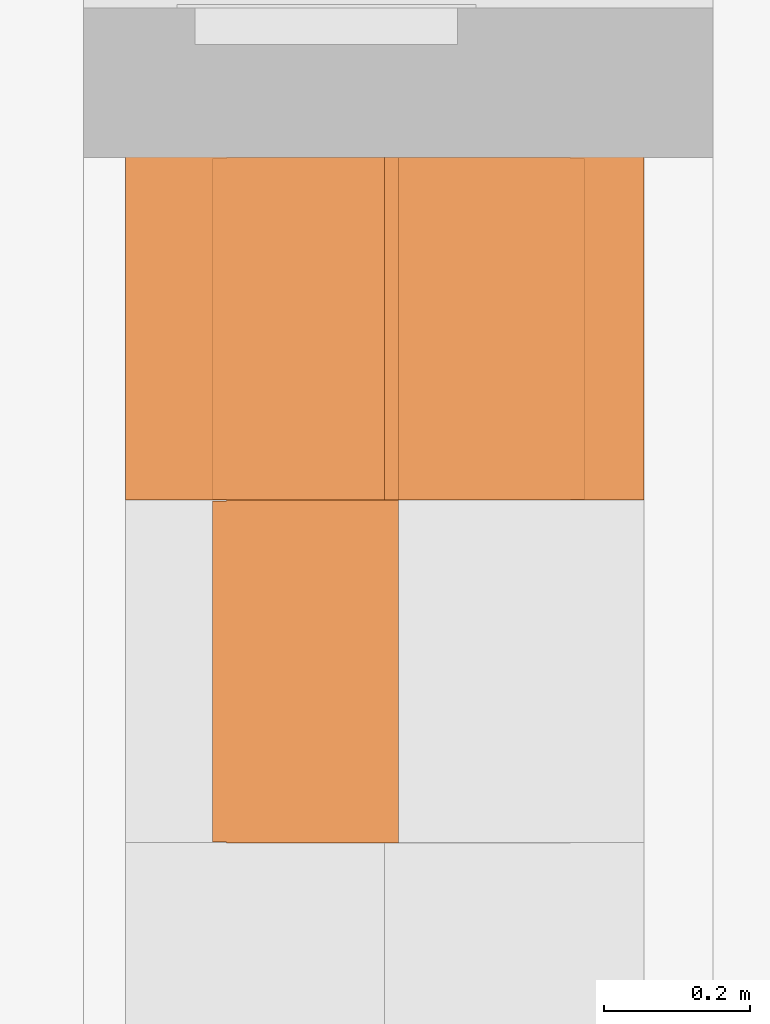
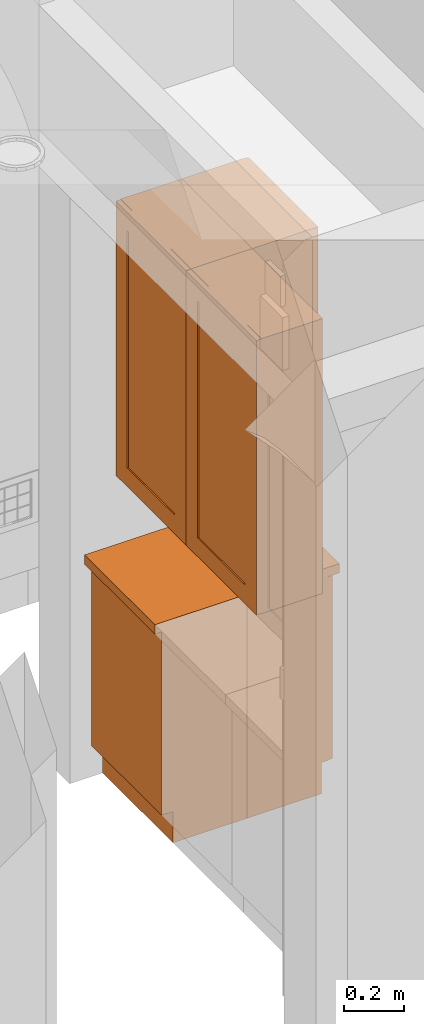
# One storey, part 56 of 77: 5 proxies.
"""IFC2X3 building model written with IfcOpenShell, lengths in inches."""

from ifc_helpers import new_model, entity, si_unit, converted_unit, derived_unit, money_unit, direction, frame, origin_with_axes, place, context, subcontext, project, spatial, faceted_brep, source, transform, mapped, type_object, element, save


model = new_model("IFC2X3")

# Units and contexts
model_context = context("Model", 3, precision=0.000393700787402, world=origin_with_axes(), true_north=direction((0.0, 1.0)))
body_context = subcontext(model_context, "Body", "Model", "MODEL_VIEW")
ifc_project = project(units=[converted_unit("LENGTHUNIT", "INCH", entity("IfcPositiveLengthMeasure", 0.0254), si_unit("LENGTHUNIT", "METRE"), dimensions=[1, 0, 0, 0, 0, 0, 0]), converted_unit("AREAUNIT", "SQUARE_FOOT", entity("IfcPositiveLengthMeasure", 0.09290304), si_unit("AREAUNIT", "SQUARE_METRE"), dimensions=[2, 0, 0, 0, 0, 0, 0]), si_unit("PLANEANGLEUNIT", "RADIAN"), si_unit("SOLIDANGLEUNIT", "STERADIAN"), money_unit("USD"), converted_unit("TIMEUNIT", "Year", entity("IfcTimeMeasure", 31556926.0), si_unit("TIMEUNIT", "SECOND"), dimensions=[0, 0, 1, 0, 0, 0, 0]), si_unit("MASSUNIT", "GRAM", prefix="KILO"), si_unit("THERMODYNAMICTEMPERATUREUNIT", "DEGREE_CELSIUS"), si_unit("LUMINOUSINTENSITYUNIT", "LUMEN"), si_unit("ENERGYUNIT", "JOULE", prefix="MEGA"), derived_unit("THERMALCONDUCTANCEUNIT", [(si_unit("POWERUNIT", "WATT"), 1), (si_unit("LENGTHUNIT", "METRE"), -1), (si_unit("THERMODYNAMICTEMPERATUREUNIT", "KELVIN"), -1)]), derived_unit("SPECIFICHEATCAPACITYUNIT", [(si_unit("ENERGYUNIT", "JOULE"), 1), (si_unit("MASSUNIT", "GRAM", prefix="KILO"), -1), (si_unit("THERMODYNAMICTEMPERATUREUNIT", "KELVIN"), -1)]), derived_unit("MASSDENSITYUNIT", [(si_unit("MASSUNIT", "GRAM", prefix="KILO"), 1), (si_unit("VOLUMEUNIT", "CUBIC_METRE"), -1)])], contexts=[model_context])

# Site, building, storey
site_placement = place(None, origin_with_axes())
site = spatial("IfcSite", under=ifc_project, at=site_placement, Name="Site", CompositionType="ELEMENT")
building_placement = place(site_placement, origin_with_axes())
building = spatial("IfcBuilding", under=site, at=building_placement, Name="Building", CompositionType="ELEMENT")
storey_placement = place(building_placement, frame((0.0, 0.0, 127.952755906), z_axis=(0.0, 0.0, 1.0), x_axis=(1.0, 0.0, 0.0)))
storey = spatial("IfcBuildingStorey", under=building, at=storey_placement, Name="Second Floor", CompositionType="ELEMENT", Elevation=127.953)

# Proxies
building_element_proxy_type_1 = type_object("IfcBuildingElementProxyType", Name="Wall Cabinet Block 25", PredefinedType="NOTDEFINED")
shared_shape_1 = source(origin_with_axes(), body_context, "Body", "Brep", [
    faceted_brep([(0.75, -9.28937007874, 70.8361220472), (17.7539370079, -9.28937007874, 70.8361220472), (17.7539370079, -9.28937007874, 71.5861220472), (0.75, -9.28937007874, 71.5861220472), (0.75, -0.75, 70.8361220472), (17.7539370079, -0.75, 70.8361220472), (17.7539370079, -0.75, 71.5861220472), (0.75, -0.75, 71.5861220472)], [[[0, 1, 2, 3]], [[0, 4, 5, 1]], [[1, 5, 6, 2]], [[3, 2, 6, 7]], [[4, 0, 3, 7]], [[5, 4, 7, 6]]]),
    faceted_brep([(0.75, -9.28937007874, 81.6722440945), (17.7539370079, -9.28937007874, 81.6722440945), (17.7539370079, -9.28937007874, 82.4222440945), (0.75, -9.28937007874, 82.4222440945), (0.75, -0.75, 81.6722440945), (17.7539370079, -0.75, 81.6722440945), (17.7539370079, -0.75, 82.4222440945), (0.75, -0.75, 82.4222440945)], [[[0, 1, 2, 3]], [[0, 4, 5, 1]], [[1, 5, 6, 2]], [[3, 2, 6, 7]], [[4, 0, 3, 7]], [[5, 4, 7, 6]]]),
    faceted_brep([(0.75, -9.28937007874, 92.5083661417), (17.7539370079, -9.28937007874, 92.5083661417), (17.7539370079, -9.28937007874, 93.2583661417), (0.75, -9.28937007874, 93.2583661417), (0.75, -0.75, 92.5083661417), (17.7539370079, -0.75, 92.5083661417), (17.7539370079, -0.75, 93.2583661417), (0.75, -0.75, 93.2583661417)], [[[0, 1, 2, 3]], [[0, 4, 5, 1]], [[1, 5, 6, 2]], [[3, 2, 6, 7]], [[4, 0, 3, 7]], [[5, 4, 7, 6]]]),
    faceted_brep([(0.0393700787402, -10.0393700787, 60.0393700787), (0.0393700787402, -10.0393700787, 104.05511811), (0.0393700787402, -9.28937007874, 104.05511811), (0.0393700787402, -9.28937007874, 60.0393700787), (3.03937007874, -10.0393700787, 63.0393700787), (3.03937007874, -10.0393700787, 101.05511811), (3.03937007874, -9.28937007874, 101.05511811), (3.03937007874, -9.28937007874, 63.0393700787)], [[[0, 1, 2, 3]], [[1, 0, 4, 5]], [[2, 1, 5, 6]], [[3, 2, 6, 7]], [[0, 3, 7, 4]], [[5, 4, 7, 6]]]),
    faceted_brep([(15.4645669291, -10.0393700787, 63.0393700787), (15.4645669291, -10.0393700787, 101.05511811), (15.4645669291, -9.28937007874, 101.05511811), (15.4645669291, -9.28937007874, 63.0393700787), (18.4645669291, -10.0393700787, 60.0393700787), (18.4645669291, -10.0393700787, 104.05511811), (18.4645669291, -9.28937007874, 104.05511811), (18.4645669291, -9.28937007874, 60.0393700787)], [[[0, 1, 2, 3]], [[1, 0, 4, 5]], [[2, 1, 5, 6]], [[3, 2, 6, 7]], [[0, 3, 7, 4]], [[5, 4, 7, 6]]]),
    faceted_brep([(0.0393700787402, -9.28937007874, 60.0393700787), (0.0393700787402, -10.0393700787, 60.0393700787), (3.03937007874, -10.0393700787, 63.0393700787), (3.03937007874, -9.28937007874, 63.0393700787), (18.4645669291, -9.28937007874, 60.0393700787), (18.4645669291, -10.0393700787, 60.0393700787), (15.4645669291, -10.0393700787, 63.0393700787), (15.4645669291, -9.28937007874, 63.0393700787)], [[[0, 1, 2, 3]], [[1, 0, 4, 5]], [[2, 1, 5, 6]], [[7, 3, 2, 6]], [[0, 3, 7, 4]], [[7, 6, 5, 4]]]),
    faceted_brep([(0.0393700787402, -10.0393700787, 104.05511811), (0.0393700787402, -9.28937007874, 104.05511811), (3.03937007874, -9.28937007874, 101.05511811), (3.03937007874, -10.0393700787, 101.05511811), (18.4645669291, -10.0393700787, 104.05511811), (18.4645669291, -9.28937007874, 104.05511811), (15.4645669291, -9.28937007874, 101.05511811), (15.4645669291, -10.0393700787, 101.05511811)], [[[0, 1, 2, 3]], [[1, 0, 4, 5]], [[2, 1, 5, 6]], [[2, 6, 7, 3]], [[0, 3, 7, 4]], [[7, 6, 5, 4]]]),
    faceted_brep([(15.4645669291, -9.47687007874, 63.0393700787), (3.03937007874, -9.47687007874, 63.0393700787), (3.03937007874, -9.47687007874, 101.05511811), (15.4645669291, -9.47687007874, 101.05511811), (15.4645669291, -9.85187007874, 63.0393700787), (3.03937007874, -9.85187007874, 63.0393700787), (3.03937007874, -9.85187007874, 101.05511811), (15.4645669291, -9.85187007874, 101.05511811)], [[[0, 1, 2, 3]], [[1, 0, 4, 5]], [[2, 1, 5, 6]], [[3, 2, 6, 7]], [[0, 3, 7, 4]], [[5, 4, 7, 6]]]),
    faceted_brep([(0.75, -9.28937007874, 60.0), (17.7539370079, -9.28937007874, 60.0), (17.7539370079, -9.28937007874, 60.75), (0.75, -9.28937007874, 60.75), (0.75, 0.0, 60.0), (17.7539370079, 0.0, 60.0), (17.7539370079, 0.0, 60.75), (0.75, 0.0, 60.75)], [[[0, 1, 2, 3]], [[0, 4, 5, 1]], [[1, 5, 6, 2]], [[3, 2, 6, 7]], [[4, 0, 3, 7]], [[5, 4, 7, 6]]]),
    faceted_brep([(0.75, -9.28937007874, 103.344488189), (17.7539370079, -9.28937007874, 103.344488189), (17.7539370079, -9.28937007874, 104.094488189), (0.75, -9.28937007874, 104.094488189), (0.75, 0.0, 103.344488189), (17.7539370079, 0.0, 103.344488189), (17.7539370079, 0.0, 104.094488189), (0.75, 0.0, 104.094488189)], [[[0, 1, 2, 3]], [[0, 4, 5, 1]], [[1, 5, 6, 2]], [[3, 2, 6, 7]], [[4, 0, 3, 7]], [[5, 4, 7, 6]]]),
    faceted_brep([(0.0, 0.0, 60.0), (0.0, -9.28937007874, 60.0), (0.0, -9.28937007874, 104.094488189), (0.0, 0.0, 104.094488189), (0.75, 0.0, 60.0), (0.75, -9.28937007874, 60.0), (0.75, -9.28937007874, 104.094488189), (0.75, 0.0, 104.094488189)], [[[0, 1, 2, 3]], [[0, 4, 5, 1]], [[1, 5, 6, 2]], [[3, 2, 6, 7]], [[4, 0, 3, 7]], [[5, 4, 7, 6]]]),
    faceted_brep([(18.5039370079, -9.28937007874, 60.0), (18.5039370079, 0.0, 60.0), (18.5039370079, 0.0, 104.094488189), (18.5039370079, -9.28937007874, 104.094488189), (17.7539370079, -9.28937007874, 60.0), (17.7539370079, 0.0, 60.0), (17.7539370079, 0.0, 104.094488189), (17.7539370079, -9.28937007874, 104.094488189)], [[[0, 1, 2, 3]], [[0, 4, 5, 1]], [[1, 5, 6, 2]], [[3, 2, 6, 7]], [[4, 0, 3, 7]], [[5, 4, 7, 6]]]),
    faceted_brep([(17.7539370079, -0.375, 60.75), (0.75, -0.375, 60.75), (0.75, -0.375, 103.344488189), (17.7539370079, -0.375, 103.344488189), (17.7539370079, -0.75, 60.75), (0.75, -0.75, 60.75), (0.75, -0.75, 103.344488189), (17.7539370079, -0.75, 103.344488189)], [[[0, 1, 2, 3]], [[0, 4, 5, 1]], [[1, 5, 6, 2]], [[3, 2, 6, 7]], [[4, 0, 3, 7]], [[5, 4, 7, 6]]]),
])
proxy_1_placement = place(storey_placement, frame((708.989643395, 274.339147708, -12.9527559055), z_axis=(0.0, 0.0, 1.0), x_axis=(0.0, -1.0, 0.0)))
element("IfcBuildingElementProxy", 1, at=proxy_1_placement, inside=storey, type_object=building_element_proxy_type_1, Name="FU - 005", context=body_context, shape_type="MappedRepresentation", body=[
    mapped(shared_shape_1, transform((0.0, 0.0, 0.0))),
])
building_element_proxy_type_2 = type_object("IfcBuildingElementProxyType", Name="Base Cabinet Block 25", PredefinedType="NOTDEFINED")
shared_shape_2 = source(origin_with_axes(), body_context, "Body", "Brep", [
    faceted_brep([(0.0, -14.0, 34.4488188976), (18.5039370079, -14.0, 34.4488188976), (18.5039370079, -14.0, 35.9488188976), (0.0, -14.0, 35.9488188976), (0.0, 0.0, 34.4488188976), (18.5039370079, 0.0, 34.4488188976), (18.5039370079, 0.0, 35.9488188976), (0.0, 0.0, 35.9488188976)], [[[0, 1, 2, 3]], [[0, 4, 5, 1]], [[1, 5, 6, 2]], [[3, 2, 6, 7]], [[4, 0, 3, 7]], [[5, 4, 7, 6]]]),
    faceted_brep([(0.0393700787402, -12.25, 5.03937007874), (18.4645669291, -12.25, 5.03937007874), (18.4645669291, -13.0, 5.03937007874), (0.0393700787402, -13.0, 5.03937007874), (0.0393700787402, -12.25, 34.4094488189), (18.4645669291, -12.25, 34.4094488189), (18.4645669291, -13.0, 34.4094488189), (0.0393700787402, -13.0, 34.4094488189)], [[[0, 1, 2, 3]], [[0, 4, 5, 1]], [[1, 5, 6, 2]], [[3, 2, 6, 7]], [[4, 0, 3, 7]], [[5, 4, 7, 6]]]),
    faceted_brep([(0.75, -12.25, 5.0), (17.7539370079, -12.25, 5.0), (17.7539370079, -12.25, 5.75), (0.75, -12.25, 5.75), (0.75, 0.0, 5.0), (17.7539370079, 0.0, 5.0), (17.7539370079, 0.0, 5.75), (0.75, 0.0, 5.75)], [[[0, 1, 2, 3]], [[0, 4, 5, 1]], [[1, 5, 6, 2]], [[3, 2, 6, 7]], [[4, 0, 3, 7]], [[5, 4, 7, 6]]]),
    faceted_brep([(0.75, -12.25, 33.6988188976), (0.75, -9.88779527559, 33.6988188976), (17.7539370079, -9.88779527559, 33.6988188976), (17.7539370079, -12.25, 33.6988188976), (0.75, -12.25, 34.4488188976), (0.75, -9.88779527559, 34.4488188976), (17.7539370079, -9.88779527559, 34.4488188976), (17.7539370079, -12.25, 34.4488188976)], [[[0, 1, 2, 3]], [[0, 4, 5, 1]], [[1, 5, 6, 2]], [[3, 2, 6, 7]], [[4, 0, 3, 7]], [[5, 4, 7, 6]]]),
    faceted_brep([(17.7539370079, 0.0, 33.6988188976), (17.7539370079, -2.36220472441, 33.6988188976), (0.75, -2.36220472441, 33.6988188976), (0.75, 0.0, 33.6988188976), (17.7539370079, 0.0, 34.4488188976), (17.7539370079, -2.36220472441, 34.4488188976), (0.75, -2.36220472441, 34.4488188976), (0.75, 0.0, 34.4488188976)], [[[0, 1, 2, 3]], [[0, 4, 5, 1]], [[1, 5, 6, 2]], [[3, 2, 6, 7]], [[4, 0, 3, 7]], [[5, 4, 7, 6]]]),
    faceted_brep([(0.0, 0.0, 5.0), (0.0, -12.25, 5.0), (0.0, -12.25, 34.4488188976), (0.0, 0.0, 34.4488188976), (0.75, 0.0, 5.0), (0.75, -12.25, 5.0), (0.75, -12.25, 34.4488188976), (0.75, 0.0, 34.4488188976)], [[[0, 1, 2, 3]], [[0, 4, 5, 1]], [[1, 5, 6, 2]], [[3, 2, 6, 7]], [[4, 0, 3, 7]], [[5, 4, 7, 6]]]),
    faceted_brep([(18.5039370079, -12.25, 5.0), (18.5039370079, 0.0, 5.0), (18.5039370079, 0.0, 34.4488188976), (18.5039370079, -12.25, 34.4488188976), (17.7539370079, -12.25, 5.0), (17.7539370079, 0.0, 5.0), (17.7539370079, 0.0, 34.4488188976), (17.7539370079, -12.25, 34.4488188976)], [[[0, 1, 2, 3]], [[0, 4, 5, 1]], [[1, 5, 6, 2]], [[3, 2, 6, 7]], [[4, 0, 3, 7]], [[5, 4, 7, 6]]]),
    faceted_brep([(17.7539370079, -0.375, 5.75), (0.75, -0.375, 5.75), (0.75, -0.375, 33.6988188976), (17.7539370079, -0.375, 33.6988188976), (17.7539370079, -0.75, 5.75), (0.75, -0.75, 5.75), (0.75, -0.75, 33.6988188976), (17.7539370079, -0.75, 33.6988188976)], [[[0, 1, 2, 3]], [[0, 4, 5, 1]], [[1, 5, 6, 2]], [[3, 2, 6, 7]], [[4, 0, 3, 7]], [[5, 4, 7, 6]]]),
    faceted_brep([(0.0, -11.25, 0.0), (18.5039370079, -11.25, 0.0), (18.5039370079, -11.25, 5.0), (0.0, -11.25, 5.0), (0.0, 0.0, 0.0), (18.5039370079, 0.0, 0.0), (18.5039370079, 0.0, 5.0), (0.0, 0.0, 5.0)], [[[0, 1, 2, 3]], [[0, 4, 5, 1]], [[1, 5, 6, 2]], [[3, 2, 6, 7]], [[4, 0, 3, 7]], [[5, 4, 7, 6]]]),
])
proxy_2_placement = place(storey_placement, frame((708.239643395, 274.361348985, 0.0), z_axis=(0.0, 0.0, 1.0), x_axis=(0.0, -1.0, 0.0)))
element("IfcBuildingElementProxy", 2, at=proxy_2_placement, inside=storey, type_object=building_element_proxy_type_2, Name="FU - 004", context=body_context, shape_type="MappedRepresentation", body=[
    mapped(shared_shape_2, transform((0.0, 0.0, 0.0))),
])
shared_shape_3 = source(origin_with_axes(), body_context, "Body", "Brep", [
    faceted_brep([(0.0, -14.0, 34.4488188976), (0.0, -14.0, 35.9488188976), (-18.5039370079, -14.0, 35.9488188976), (-18.5039370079, -14.0, 34.4488188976), (0.0, 0.0, 34.4488188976), (0.0, 0.0, 35.9488188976), (-18.5039370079, 0.0, 35.9488188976), (-18.5039370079, 0.0, 34.4488188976)], [[[0, 1, 2, 3]], [[4, 5, 1, 0]], [[1, 5, 6, 2]], [[3, 2, 6, 7]], [[0, 3, 7, 4]], [[7, 6, 5, 4]]]),
    faceted_brep([(-0.0393700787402, -12.25, 5.03937007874), (-0.0393700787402, -13.0, 5.03937007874), (-18.4645669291, -13.0, 5.03937007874), (-18.4645669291, -12.25, 5.03937007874), (-0.0393700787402, -12.25, 34.4094488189), (-0.0393700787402, -13.0, 34.4094488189), (-18.4645669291, -13.0, 34.4094488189), (-18.4645669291, -12.25, 34.4094488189)], [[[0, 1, 2, 3]], [[4, 5, 1, 0]], [[1, 5, 6, 2]], [[3, 2, 6, 7]], [[0, 3, 7, 4]], [[7, 6, 5, 4]]]),
    faceted_brep([(-0.75, -12.25, 5.0), (-0.75, -12.25, 5.75), (-17.7539370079, -12.25, 5.75), (-17.7539370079, -12.25, 5.0), (-0.75, 0.0, 5.0), (-0.75, 0.0, 5.75), (-17.7539370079, 0.0, 5.75), (-17.7539370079, 0.0, 5.0)], [[[0, 1, 2, 3]], [[4, 5, 1, 0]], [[1, 5, 6, 2]], [[3, 2, 6, 7]], [[0, 3, 7, 4]], [[7, 6, 5, 4]]]),
    faceted_brep([(-0.75, -12.25, 33.6988188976), (-17.7539370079, -12.25, 33.6988188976), (-17.7539370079, -9.88779527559, 33.6988188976), (-0.75, -9.88779527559, 33.6988188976), (-0.75, -12.25, 34.4488188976), (-17.7539370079, -12.25, 34.4488188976), (-17.7539370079, -9.88779527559, 34.4488188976), (-0.75, -9.88779527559, 34.4488188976)], [[[0, 1, 2, 3]], [[4, 5, 1, 0]], [[1, 5, 6, 2]], [[3, 2, 6, 7]], [[0, 3, 7, 4]], [[7, 6, 5, 4]]]),
    faceted_brep([(-17.7539370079, 0.0, 33.6988188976), (-0.75, 0.0, 33.6988188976), (-0.75, -2.36220472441, 33.6988188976), (-17.7539370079, -2.36220472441, 33.6988188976), (-17.7539370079, 0.0, 34.4488188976), (-0.75, 0.0, 34.4488188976), (-0.75, -2.36220472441, 34.4488188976), (-17.7539370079, -2.36220472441, 34.4488188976)], [[[0, 1, 2, 3]], [[4, 5, 1, 0]], [[1, 5, 6, 2]], [[3, 2, 6, 7]], [[0, 3, 7, 4]], [[7, 6, 5, 4]]]),
    faceted_brep([(0.0, 0.0, 5.0), (0.0, 0.0, 34.4488188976), (0.0, -12.25, 34.4488188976), (0.0, -12.25, 5.0), (-0.75, 0.0, 5.0), (-0.75, 0.0, 34.4488188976), (-0.75, -12.25, 34.4488188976), (-0.75, -12.25, 5.0)], [[[0, 1, 2, 3]], [[4, 5, 1, 0]], [[1, 5, 6, 2]], [[3, 2, 6, 7]], [[0, 3, 7, 4]], [[7, 6, 5, 4]]]),
    faceted_brep([(-18.5039370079, -12.25, 5.0), (-18.5039370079, -12.25, 34.4488188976), (-18.5039370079, 0.0, 34.4488188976), (-18.5039370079, 0.0, 5.0), (-17.7539370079, -12.25, 5.0), (-17.7539370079, -12.25, 34.4488188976), (-17.7539370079, 0.0, 34.4488188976), (-17.7539370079, 0.0, 5.0)], [[[0, 1, 2, 3]], [[4, 5, 1, 0]], [[1, 5, 6, 2]], [[3, 2, 6, 7]], [[0, 3, 7, 4]], [[7, 6, 5, 4]]]),
    faceted_brep([(-17.7539370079, -0.375, 5.75), (-17.7539370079, -0.375, 33.6988188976), (-0.75, -0.375, 33.6988188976), (-0.75, -0.375, 5.75), (-17.7539370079, -0.75, 5.75), (-17.7539370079, -0.75, 33.6988188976), (-0.75, -0.75, 33.6988188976), (-0.75, -0.75, 5.75)], [[[0, 1, 2, 3]], [[4, 5, 1, 0]], [[1, 5, 6, 2]], [[3, 2, 6, 7]], [[0, 3, 7, 4]], [[7, 6, 5, 4]]]),
    faceted_brep([(0.0, -11.25, 0.0), (0.0, -11.25, 5.0), (-18.5039370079, -11.25, 5.0), (-18.5039370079, -11.25, 0.0), (0.0, 0.0, 0.0), (0.0, 0.0, 5.0), (-18.5039370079, 0.0, 5.0), (-18.5039370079, 0.0, 0.0)], [[[0, 1, 2, 3]], [[4, 5, 1, 0]], [[1, 5, 6, 2]], [[3, 2, 6, 7]], [[0, 3, 7, 4]], [[7, 6, 5, 4]]]),
])
proxy_3_placement = place(storey_placement, frame((708.239643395, 274.361348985, 0.0), z_axis=(0.0, 0.0, 1.0), x_axis=(0.0, 1.0, 0.0)))
element("IfcBuildingElementProxy", 3, at=proxy_3_placement, inside=storey, type_object=building_element_proxy_type_2, Name="FU - 004", context=body_context, shape_type="MappedRepresentation", body=[
    mapped(shared_shape_3, transform((0.0, 0.0, 0.0))),
])
shared_shape_4 = source(origin_with_axes(), body_context, "Body", "Brep", [
    faceted_brep([(-0.75, -9.28937007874, 70.8361220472), (-0.75, -9.28937007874, 71.5861220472), (-17.7539370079, -9.28937007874, 71.5861220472), (-17.7539370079, -9.28937007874, 70.8361220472), (-0.75, -0.75, 70.8361220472), (-0.75, -0.75, 71.5861220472), (-17.7539370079, -0.75, 71.5861220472), (-17.7539370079, -0.75, 70.8361220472)], [[[0, 1, 2, 3]], [[4, 5, 1, 0]], [[1, 5, 6, 2]], [[3, 2, 6, 7]], [[0, 3, 7, 4]], [[7, 6, 5, 4]]]),
    faceted_brep([(-0.75, -9.28937007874, 81.6722440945), (-0.75, -9.28937007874, 82.4222440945), (-17.7539370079, -9.28937007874, 82.4222440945), (-17.7539370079, -9.28937007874, 81.6722440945), (-0.75, -0.75, 81.6722440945), (-0.75, -0.75, 82.4222440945), (-17.7539370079, -0.75, 82.4222440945), (-17.7539370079, -0.75, 81.6722440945)], [[[0, 1, 2, 3]], [[4, 5, 1, 0]], [[1, 5, 6, 2]], [[3, 2, 6, 7]], [[0, 3, 7, 4]], [[7, 6, 5, 4]]]),
    faceted_brep([(-0.75, -9.28937007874, 92.5083661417), (-0.75, -9.28937007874, 93.2583661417), (-17.7539370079, -9.28937007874, 93.2583661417), (-17.7539370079, -9.28937007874, 92.5083661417), (-0.75, -0.75, 92.5083661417), (-0.75, -0.75, 93.2583661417), (-17.7539370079, -0.75, 93.2583661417), (-17.7539370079, -0.75, 92.5083661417)], [[[0, 1, 2, 3]], [[4, 5, 1, 0]], [[1, 5, 6, 2]], [[3, 2, 6, 7]], [[0, 3, 7, 4]], [[7, 6, 5, 4]]]),
    faceted_brep([(-3.03937007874, -10.0393700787, 101.05511811), (-3.03937007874, -10.0393700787, 63.0393700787), (-0.0393700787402, -10.0393700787, 60.0393700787), (-0.0393700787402, -10.0393700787, 104.05511811), (-3.03937007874, -9.28937007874, 101.05511811), (-3.03937007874, -9.28937007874, 63.0393700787), (-0.0393700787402, -9.28937007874, 60.0393700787), (-0.0393700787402, -9.28937007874, 104.05511811)], [[[0, 1, 2, 3]], [[1, 0, 4, 5]], [[1, 5, 6, 2]], [[3, 2, 6, 7]], [[4, 0, 3, 7]], [[5, 4, 7, 6]]]),
    faceted_brep([(-18.4645669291, -10.0393700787, 60.0393700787), (-18.4645669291, -10.0393700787, 104.05511811), (-18.4645669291, -9.28937007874, 104.05511811), (-18.4645669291, -9.28937007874, 60.0393700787), (-15.4645669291, -10.0393700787, 63.0393700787), (-15.4645669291, -10.0393700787, 101.05511811), (-15.4645669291, -9.28937007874, 101.05511811), (-15.4645669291, -9.28937007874, 63.0393700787)], [[[0, 1, 2, 3]], [[1, 0, 4, 5]], [[2, 1, 5, 6]], [[3, 2, 6, 7]], [[0, 3, 7, 4]], [[5, 4, 7, 6]]]),
    faceted_brep([(-18.4645669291, -9.28937007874, 60.0393700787), (-18.4645669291, -10.0393700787, 60.0393700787), (-15.4645669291, -10.0393700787, 63.0393700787), (-15.4645669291, -9.28937007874, 63.0393700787), (-0.0393700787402, -9.28937007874, 60.0393700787), (-0.0393700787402, -10.0393700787, 60.0393700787), (-3.03937007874, -10.0393700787, 63.0393700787), (-3.03937007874, -9.28937007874, 63.0393700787)], [[[0, 1, 2, 3]], [[1, 0, 4, 5]], [[2, 1, 5, 6]], [[7, 3, 2, 6]], [[0, 3, 7, 4]], [[7, 6, 5, 4]]]),
    faceted_brep([(-18.4645669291, -10.0393700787, 104.05511811), (-18.4645669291, -9.28937007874, 104.05511811), (-15.4645669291, -9.28937007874, 101.05511811), (-15.4645669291, -10.0393700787, 101.05511811), (-0.0393700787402, -10.0393700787, 104.05511811), (-0.0393700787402, -9.28937007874, 104.05511811), (-3.03937007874, -9.28937007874, 101.05511811), (-3.03937007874, -10.0393700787, 101.05511811)], [[[0, 1, 2, 3]], [[1, 0, 4, 5]], [[2, 1, 5, 6]], [[2, 6, 7, 3]], [[0, 3, 7, 4]], [[7, 6, 5, 4]]]),
    faceted_brep([(-15.4645669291, -9.47687007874, 63.0393700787), (-15.4645669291, -9.47687007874, 101.05511811), (-3.03937007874, -9.47687007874, 101.05511811), (-3.03937007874, -9.47687007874, 63.0393700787), (-15.4645669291, -9.85187007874, 63.0393700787), (-15.4645669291, -9.85187007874, 101.05511811), (-3.03937007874, -9.85187007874, 101.05511811), (-3.03937007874, -9.85187007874, 63.0393700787)], [[[0, 1, 2, 3]], [[0, 4, 5, 1]], [[1, 5, 6, 2]], [[2, 6, 7, 3]], [[3, 7, 4, 0]], [[7, 6, 5, 4]]]),
    faceted_brep([(-0.75, -9.28937007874, 60.0), (-0.75, -9.28937007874, 60.75), (-17.7539370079, -9.28937007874, 60.75), (-17.7539370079, -9.28937007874, 60.0), (-0.75, 0.0, 60.0), (-0.75, 0.0, 60.75), (-17.7539370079, 0.0, 60.75), (-17.7539370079, 0.0, 60.0)], [[[0, 1, 2, 3]], [[4, 5, 1, 0]], [[1, 5, 6, 2]], [[3, 2, 6, 7]], [[0, 3, 7, 4]], [[7, 6, 5, 4]]]),
    faceted_brep([(-0.75, -9.28937007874, 103.344488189), (-0.75, -9.28937007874, 104.094488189), (-17.7539370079, -9.28937007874, 104.094488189), (-17.7539370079, -9.28937007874, 103.344488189), (-0.75, 0.0, 103.344488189), (-0.75, 0.0, 104.094488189), (-17.7539370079, 0.0, 104.094488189), (-17.7539370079, 0.0, 103.344488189)], [[[0, 1, 2, 3]], [[4, 5, 1, 0]], [[1, 5, 6, 2]], [[3, 2, 6, 7]], [[0, 3, 7, 4]], [[7, 6, 5, 4]]]),
    faceted_brep([(0.0, 0.0, 60.0), (0.0, 0.0, 104.094488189), (0.0, -9.28937007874, 104.094488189), (0.0, -9.28937007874, 60.0), (-0.75, 0.0, 60.0), (-0.75, 0.0, 104.094488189), (-0.75, -9.28937007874, 104.094488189), (-0.75, -9.28937007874, 60.0)], [[[0, 1, 2, 3]], [[4, 5, 1, 0]], [[1, 5, 6, 2]], [[3, 2, 6, 7]], [[0, 3, 7, 4]], [[7, 6, 5, 4]]]),
    faceted_brep([(-18.5039370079, -9.28937007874, 60.0), (-18.5039370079, -9.28937007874, 104.094488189), (-18.5039370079, 0.0, 104.094488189), (-18.5039370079, 0.0, 60.0), (-17.7539370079, -9.28937007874, 60.0), (-17.7539370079, -9.28937007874, 104.094488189), (-17.7539370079, 0.0, 104.094488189), (-17.7539370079, 0.0, 60.0)], [[[0, 1, 2, 3]], [[4, 5, 1, 0]], [[1, 5, 6, 2]], [[3, 2, 6, 7]], [[0, 3, 7, 4]], [[7, 6, 5, 4]]]),
    faceted_brep([(-17.7539370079, -0.375, 60.75), (-17.7539370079, -0.375, 103.344488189), (-0.75, -0.375, 103.344488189), (-0.75, -0.375, 60.75), (-17.7539370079, -0.75, 60.75), (-17.7539370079, -0.75, 103.344488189), (-0.75, -0.75, 103.344488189), (-0.75, -0.75, 60.75)], [[[0, 1, 2, 3]], [[4, 5, 1, 0]], [[1, 5, 6, 2]], [[3, 2, 6, 7]], [[0, 3, 7, 4]], [[7, 6, 5, 4]]]),
])
for number, where, z_axis, x_axis, name in (
    (4, (708.989643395, 274.339147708, -12.9527559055), (0.0, 0.0, 1.0), (0.0, 1.0, 0.0), "FU - 005"),
    (5, (708.989643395, 237.331273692, -12.9527559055), (0.0, 0.0, 1.0), (0.0, -1.0, 0.0), "FU - 005"),
):
    element("IfcBuildingElementProxy", number, at=place(storey_placement, frame(where, z_axis=z_axis, x_axis=x_axis)), inside=storey, type_object=building_element_proxy_type_1, Name=name, context=body_context, shape_type="MappedRepresentation", body=[
        mapped(shared_shape_4, transform((0.0, 0.0, 0.0))),
    ])

save(model, "model.ifc")
